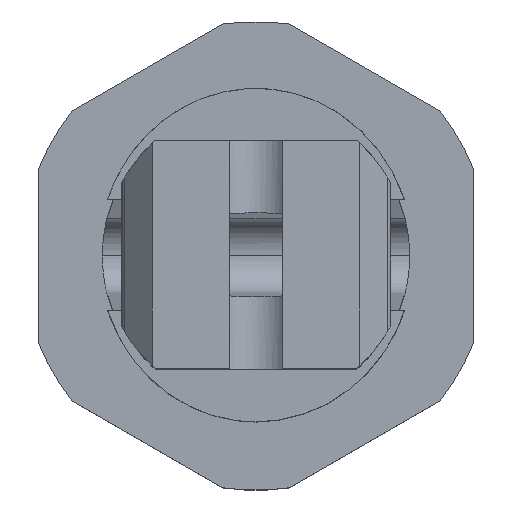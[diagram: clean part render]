
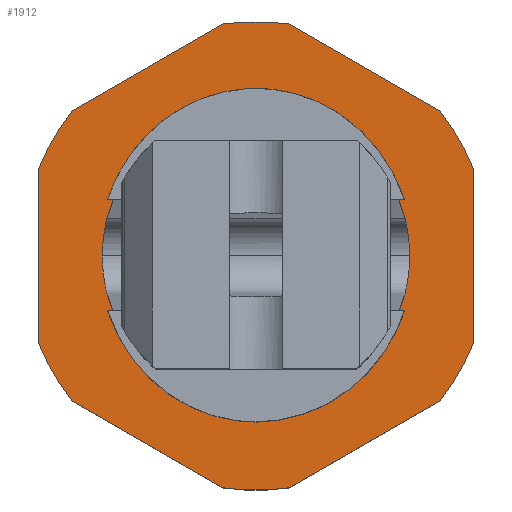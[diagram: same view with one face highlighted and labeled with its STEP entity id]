
A CAD part, top view. The second image highlights one B-rep face of the part: STEP entity #1912.
In plain terms, the highlighted planar face has unit normal (0, 0, 1).
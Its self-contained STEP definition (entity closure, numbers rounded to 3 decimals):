
#44 = CIRCLE ( 'NONE', #1778, 3.125 ) ;
#88 = DIRECTION ( 'NONE',  ( 0., 0., -1. ) ) ;
#99 = CARTESIAN_POINT ( 'NONE',  ( -2.9, -1.164, -5.461 ) ) ;
#102 = CARTESIAN_POINT ( 'NONE',  ( -2.9, 1.164, -5.461 ) ) ;
#106 = VERTEX_POINT ( 'NONE', #855 ) ;
#107 = CARTESIAN_POINT ( 'NONE',  ( 2.458, -1.929, -5.461 ) ) ;
#139 = EDGE_CURVE ( 'NONE', #106, #251, #1485, .T. ) ;
#145 = DIRECTION ( 'NONE',  ( 0., 0., -1. ) ) ;
#150 = DIRECTION ( 'NONE',  ( -0.866, 0.5, 0. ) ) ;
#162 = DIRECTION ( 'NONE',  ( -1., 0., 0. ) ) ;
#182 = CARTESIAN_POINT ( 'NONE',  ( -2.458, -1.929, -5.461 ) ) ;
#186 = EDGE_CURVE ( 'NONE', #1594, #891, #44, .T. ) ;
#212 = CARTESIAN_POINT ( 'NONE',  ( -2.05, 0., -5.461 ) ) ;
#220 = DIRECTION ( 'NONE',  ( -1., 0., 0. ) ) ;
#251 = VERTEX_POINT ( 'NONE', #467 ) ;
#254 = ORIENTED_EDGE ( 'NONE', *, *, #1358, .F. ) ;
#260 = DIRECTION ( 'NONE',  ( 0., 0., -1. ) ) ;
#283 = CIRCLE ( 'NONE', #1043, 2.05 ) ;
#295 = CARTESIAN_POINT ( 'NONE',  ( 0., 0., -5.461 ) ) ;
#303 = CARTESIAN_POINT ( 'NONE',  ( 0., 0., -5.461 ) ) ;
#310 = CARTESIAN_POINT ( 'NONE',  ( 2.05, 0., -5.461 ) ) ;
#335 = ORIENTED_EDGE ( 'NONE', *, *, #186, .F. ) ;
#338 = VECTOR ( 'NONE', #676, 1000. ) ;
#360 = DIRECTION ( 'NONE',  ( -0.866, -0.5, 0. ) ) ;
#372 = LINE ( 'NONE', #810, #338 ) ;
#381 = PLANE ( 'NONE',  #728 ) ;
#383 = LINE ( 'NONE', #1147, #1291 ) ;
#388 = DIRECTION ( 'NONE',  ( -1., 0., 0. ) ) ;
#389 = AXIS2_PLACEMENT_3D ( 'NONE', #894, #1342, #733 ) ;
#391 = CARTESIAN_POINT ( 'NONE',  ( 0., 0., -5.461 ) ) ;
#394 = EDGE_CURVE ( 'NONE', #1511, #1663, #383, .T. ) ;
#412 = FACE_OUTER_BOUND ( 'NONE', #1126, .T. ) ;
#459 = VERTEX_POINT ( 'NONE', #102 ) ;
#467 = CARTESIAN_POINT ( 'NONE',  ( 0.442, 3.094, -5.461 ) ) ;
#491 = EDGE_CURVE ( 'NONE', #1808, #106, #611, .T. ) ;
#493 = VERTEX_POINT ( 'NONE', #1829 ) ;
#514 = VERTEX_POINT ( 'NONE', #310 ) ;
#520 = EDGE_CURVE ( 'NONE', #1331, #514, #672, .T. ) ;
#611 = LINE ( 'NONE', #1504, #1976 ) ;
#616 = EDGE_CURVE ( 'NONE', #459, #1808, #1067, .T. ) ;
#641 = AXIS2_PLACEMENT_3D ( 'NONE', #1515, #145, #742 ) ;
#662 = VERTEX_POINT ( 'NONE', #1257 ) ;
#672 = CIRCLE ( 'NONE', #389, 2.05 ) ;
#676 = DIRECTION ( 'NONE',  ( 0., 1., 0. ) ) ;
#685 = CARTESIAN_POINT ( 'NONE',  ( -2.458, 1.929, -5.461 ) ) ;
#687 = CARTESIAN_POINT ( 'NONE',  ( 0.442, 3.094, -5.461 ) ) ;
#728 = AXIS2_PLACEMENT_3D ( 'NONE', #391, #260, #1185 ) ;
#729 = DIRECTION ( 'NONE',  ( 0., 0., -1. ) ) ;
#733 = DIRECTION ( 'NONE',  ( -1., 0., 0. ) ) ;
#742 = DIRECTION ( 'NONE',  ( -1., 0., 0. ) ) ;
#755 = ORIENTED_EDGE ( 'NONE', *, *, #1830, .F. ) ;
#781 = LINE ( 'NONE', #887, #1658 ) ;
#790 = AXIS2_PLACEMENT_3D ( 'NONE', #1032, #729, #388 ) ;
#797 = EDGE_CURVE ( 'NONE', #514, #1331, #283, .T. ) ;
#810 = CARTESIAN_POINT ( 'NONE',  ( -2.9, -1.164, -5.461 ) ) ;
#831 = EDGE_CURVE ( 'NONE', #1834, #493, #1785, .T. ) ;
#855 = CARTESIAN_POINT ( 'NONE',  ( -0.442, 3.094, -5.461 ) ) ;
#860 = CARTESIAN_POINT ( 'NONE',  ( 0., 0., -5.461 ) ) ;
#865 = ORIENTED_EDGE ( 'NONE', *, *, #491, .F. ) ;
#887 = CARTESIAN_POINT ( 'NONE',  ( -0.442, -3.094, -5.461 ) ) ;
#891 = VERTEX_POINT ( 'NONE', #99 ) ;
#894 = CARTESIAN_POINT ( 'NONE',  ( 0., 0., -5.461 ) ) ;
#904 = AXIS2_PLACEMENT_3D ( 'NONE', #1963, #1767, #995 ) ;
#913 = VECTOR ( 'NONE', #1755, 1000. ) ;
#915 = DIRECTION ( 'NONE',  ( 0.866, 0.5, 0. ) ) ;
#916 = ORIENTED_EDGE ( 'NONE', *, *, #1194, .F. ) ;
#943 = AXIS2_PLACEMENT_3D ( 'NONE', #295, #1555, #1510 ) ;
#954 = EDGE_LOOP ( 'NONE', ( #1843, #1227 ) ) ;
#969 = CARTESIAN_POINT ( 'NONE',  ( 0., 0., -5.461 ) ) ;
#977 = ORIENTED_EDGE ( 'NONE', *, *, #831, .F. ) ;
#980 = CARTESIAN_POINT ( 'NONE',  ( 2.458, -1.929, -5.461 ) ) ;
#995 = DIRECTION ( 'NONE',  ( -1., 0., 0. ) ) ;
#1032 = CARTESIAN_POINT ( 'NONE',  ( 0., 0., -5.461 ) ) ;
#1043 = AXIS2_PLACEMENT_3D ( 'NONE', #860, #88, #220 ) ;
#1067 = CIRCLE ( 'NONE', #641, 3.125 ) ;
#1107 = ORIENTED_EDGE ( 'NONE', *, *, #1366, .F. ) ;
#1126 = EDGE_LOOP ( 'NONE', ( #1575, #865, #1664, #1107, #335, #1866, #755, #977, #916, #1541, #1140, #254 ) ) ;
#1131 = LINE ( 'NONE', #687, #913 ) ;
#1140 = ORIENTED_EDGE ( 'NONE', *, *, #1616, .F. ) ;
#1147 = CARTESIAN_POINT ( 'NONE',  ( 2.9, 1.164, -5.461 ) ) ;
#1185 = DIRECTION ( 'NONE',  ( -1., 0., 0. ) ) ;
#1194 = EDGE_CURVE ( 'NONE', #1663, #1834, #1788, .T. ) ;
#1210 = EDGE_CURVE ( 'NONE', #662, #1594, #781, .T. ) ;
#1227 = ORIENTED_EDGE ( 'NONE', *, *, #520, .T. ) ;
#1243 = CIRCLE ( 'NONE', #1440, 3.125 ) ;
#1257 = CARTESIAN_POINT ( 'NONE',  ( -0.442, -3.094, -5.461 ) ) ;
#1291 = VECTOR ( 'NONE', #1646, 1000. ) ;
#1298 = CARTESIAN_POINT ( 'NONE',  ( 2.9, -1.164, -5.461 ) ) ;
#1331 = VERTEX_POINT ( 'NONE', #212 ) ;
#1342 = DIRECTION ( 'NONE',  ( 0., 0., -1. ) ) ;
#1355 = DIRECTION ( 'NONE',  ( 0., 0., -1. ) ) ;
#1358 = EDGE_CURVE ( 'NONE', #251, #1735, #1131, .T. ) ;
#1366 = EDGE_CURVE ( 'NONE', #891, #459, #372, .T. ) ;
#1432 = VECTOR ( 'NONE', #360, 1000. ) ;
#1440 = AXIS2_PLACEMENT_3D ( 'NONE', #969, #1914, #1732 ) ;
#1485 = CIRCLE ( 'NONE', #904, 3.125 ) ;
#1504 = CARTESIAN_POINT ( 'NONE',  ( -2.458, 1.929, -5.461 ) ) ;
#1510 = DIRECTION ( 'NONE',  ( -1., 0., 0. ) ) ;
#1511 = VERTEX_POINT ( 'NONE', #1551 ) ;
#1515 = CARTESIAN_POINT ( 'NONE',  ( 0., 0., -5.461 ) ) ;
#1541 = ORIENTED_EDGE ( 'NONE', *, *, #394, .F. ) ;
#1551 = CARTESIAN_POINT ( 'NONE',  ( 2.9, 1.164, -5.461 ) ) ;
#1555 = DIRECTION ( 'NONE',  ( 0., 0., -1. ) ) ;
#1575 = ORIENTED_EDGE ( 'NONE', *, *, #139, .F. ) ;
#1594 = VERTEX_POINT ( 'NONE', #182 ) ;
#1616 = EDGE_CURVE ( 'NONE', #1735, #1511, #1243, .T. ) ;
#1646 = DIRECTION ( 'NONE',  ( 0., -1., 0. ) ) ;
#1658 = VECTOR ( 'NONE', #150, 1000. ) ;
#1663 = VERTEX_POINT ( 'NONE', #1298 ) ;
#1664 = ORIENTED_EDGE ( 'NONE', *, *, #616, .F. ) ;
#1732 = DIRECTION ( 'NONE',  ( -1., 0., 0. ) ) ;
#1735 = VERTEX_POINT ( 'NONE', #1876 ) ;
#1755 = DIRECTION ( 'NONE',  ( 0.866, -0.5, 0. ) ) ;
#1764 = FACE_BOUND ( 'NONE', #954, .T. ) ;
#1767 = DIRECTION ( 'NONE',  ( 0., 0., -1. ) ) ;
#1778 = AXIS2_PLACEMENT_3D ( 'NONE', #303, #1355, #162 ) ;
#1785 = LINE ( 'NONE', #980, #1432 ) ;
#1788 = CIRCLE ( 'NONE', #943, 3.125 ) ;
#1808 = VERTEX_POINT ( 'NONE', #685 ) ;
#1829 = CARTESIAN_POINT ( 'NONE',  ( 0.442, -3.094, -5.461 ) ) ;
#1830 = EDGE_CURVE ( 'NONE', #493, #662, #1924, .T. ) ;
#1834 = VERTEX_POINT ( 'NONE', #107 ) ;
#1843 = ORIENTED_EDGE ( 'NONE', *, *, #797, .T. ) ;
#1866 = ORIENTED_EDGE ( 'NONE', *, *, #1210, .F. ) ;
#1876 = CARTESIAN_POINT ( 'NONE',  ( 2.458, 1.929, -5.461 ) ) ;
#1912 = ADVANCED_FACE ( 'NONE', ( #412, #1764 ), #381, .F. ) ;
#1914 = DIRECTION ( 'NONE',  ( 0., 0., -1. ) ) ;
#1924 = CIRCLE ( 'NONE', #790, 3.125 ) ;
#1963 = CARTESIAN_POINT ( 'NONE',  ( 0., 0., -5.461 ) ) ;
#1976 = VECTOR ( 'NONE', #915, 1000. ) ;
